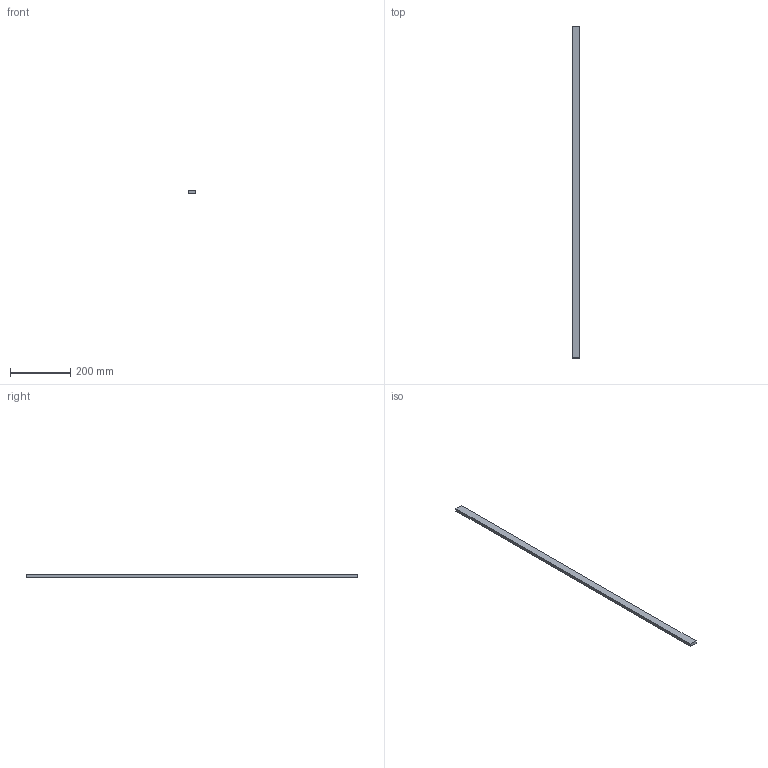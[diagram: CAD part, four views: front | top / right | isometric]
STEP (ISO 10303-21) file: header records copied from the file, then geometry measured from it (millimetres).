
FILE_DESCRIPTION(('Open CASCADE Model'),'2;1');
FILE_NAME('Open CASCADE Shape Model','2026-03-30T20:16:05',('Author'),( 'Open CASCADE'),'Open CASCADE STEP processor 7.8','Open CASCADE 7.8' ,'Unknown');
FILE_SCHEMA(('AUTOMOTIVE_DESIGN { 1 0 10303 214 1 1 1 1 }'));
Length unit declared in the file: millimetre
Products named in the file (1): Open CASCADE STEP translator 7.8 21
Bounding box: 25 x 1100 x 10 mm (x, y, z)
Volume: 275000 mm3; surface area: 77500 mm2
Topology: 1 solids, 1 shells, 6 faces, 12 edges, 8 vertices
Faces by surface type: plane 6
Entity records: 322 total; most frequent: CARTESIAN_POINT 51, DIRECTION 50, LINE 36, VECTOR 36, ORIENTED_EDGE 24, PCURVE 24, DEFINITIONAL_REPRESENTATION 24, EDGE_CURVE 12
